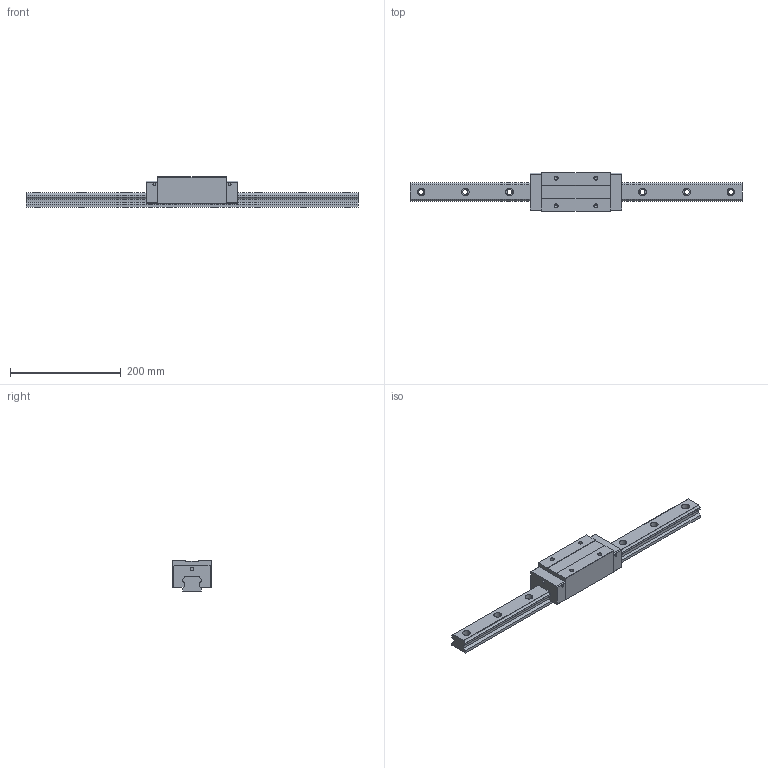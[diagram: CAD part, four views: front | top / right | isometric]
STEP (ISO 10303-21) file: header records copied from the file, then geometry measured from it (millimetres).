
FILE_DESCRIPTION (( 'STEP AP203' ), '1' );
FILE_NAME ('TRH35VE-WW.STEP', '2024-05-16T03:44:05', ( '' ), ( '' ), 'SwSTEP 2.0', 'SolidWorks 2022', '' );
FILE_SCHEMA (( 'CONFIG_CONTROL_DESIGN' ));
Length unit declared in the file: millimetre
Products named in the file (1): TRH35VE-WW
Bounding box: 600 x 70 x 55 mm (x, y, z)
Volume: 874062.6 mm3; surface area: 134243.8 mm2
Topology: 2 solids, 2 shells, 186 faces, 488 edges, 316 vertices
Faces by surface type: cylinder 88, plane 82, cone 16
Entity records: 5819 total; most frequent: DIRECTION 1038, CARTESIAN_POINT 983, ORIENTED_EDGE 960, EDGE_CURVE 480, AXIS2_PLACEMENT_3D 371, VERTEX_POINT 316, LINE 296, VECTOR 296
